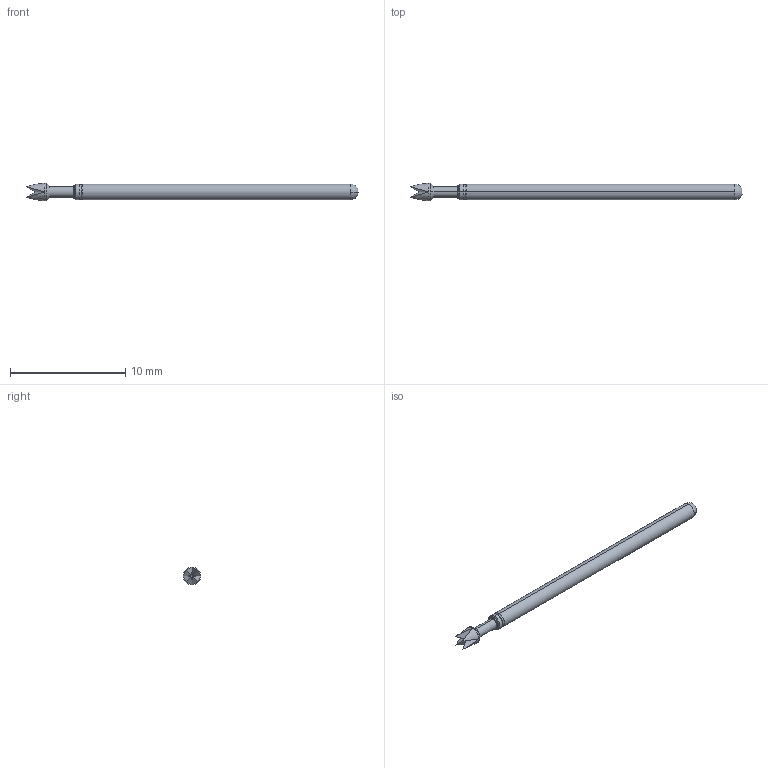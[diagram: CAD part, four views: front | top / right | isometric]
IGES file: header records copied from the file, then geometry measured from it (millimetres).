
Start section: SolidWorks IGES file using analytic representation for surfaces
Global section: file name: Z:\probe solid model mockups\Solidworks models\POGO-25 IGS files\POGO-25L RECD.IGS; native system: SolidWorks 2006 by SolidWorks Corporation; preprocessor: SolidWorks 2006 by SolidWorks Corporation; author: tsakatani; date: 071214.092822; units: inch
Bounding box: 28.78 x 1.52 x 1.52 mm (x, y, z)
Surface area: 124.2 mm2 (no closed solid volume)
Topology: 0 solids, 0 shells, 32 faces, 194 edges, 194 vertices
Faces by surface type: revolution 18, bspline 14
